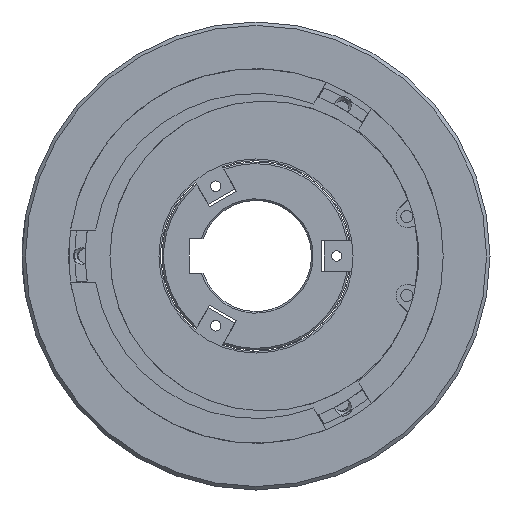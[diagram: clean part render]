
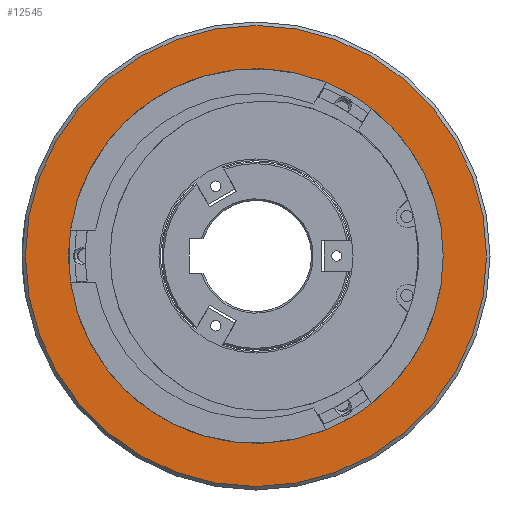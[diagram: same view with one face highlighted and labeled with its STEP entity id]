
A CAD part, left-side view. The second image highlights one B-rep face of the part: STEP entity #12545.
In plain terms, the highlighted planar face has unit normal (-1, 0, 0).
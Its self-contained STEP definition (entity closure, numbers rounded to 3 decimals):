
#1135=FACE_BOUND('',#4434,.T.);
#3028=PLANE('',#13825);
#3627=FACE_OUTER_BOUND('',#4433,.T.);
#4433=EDGE_LOOP('',(#11437));
#4434=EDGE_LOOP('',(#11438));
#5277=CIRCLE('',#13824,66.5);
#5278=CIRCLE('',#13826,54.);
#6476=VERTEX_POINT('',#37361);
#6477=VERTEX_POINT('',#37365);
#8167=EDGE_CURVE('',#6476,#6476,#5277,.T.);
#8168=EDGE_CURVE('',#6477,#6477,#5278,.T.);
#11437=ORIENTED_EDGE('',*,*,#8167,.F.);
#11438=ORIENTED_EDGE('',*,*,#8168,.T.);
#12545=ADVANCED_FACE('',(#3627,#1135),#3028,.T.);
#13824=AXIS2_PLACEMENT_3D('',#37363,#16968,#16969);
#13825=AXIS2_PLACEMENT_3D('',#37364,#16970,#16971);
#13826=AXIS2_PLACEMENT_3D('',#37366,#16972,#16973);
#16968=DIRECTION('center_axis',(1.,0.,0.));
#16969=DIRECTION('ref_axis',(0.,-1.,0.));
#16970=DIRECTION('center_axis',(-1.,0.,0.));
#16971=DIRECTION('ref_axis',(0.,0.,
1.));
#16972=DIRECTION('center_axis',(1.,0.,0.));
#16973=DIRECTION('ref_axis',(0.,1.,0.));
#37361=CARTESIAN_POINT('',(-25.,66.5,0.));
#37363=CARTESIAN_POINT('Origin',(-25.,0.,0.));
#37364=CARTESIAN_POINT('Origin',(-25.,60.75,0.));
#37365=CARTESIAN_POINT('',(-25.,-54.,0.));
#37366=CARTESIAN_POINT('Origin',(-25.,0.,0.));
